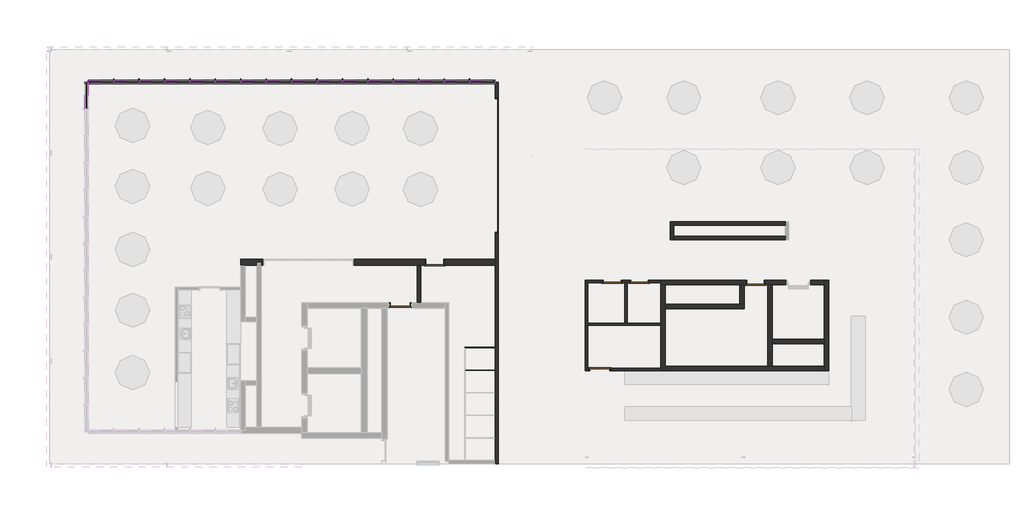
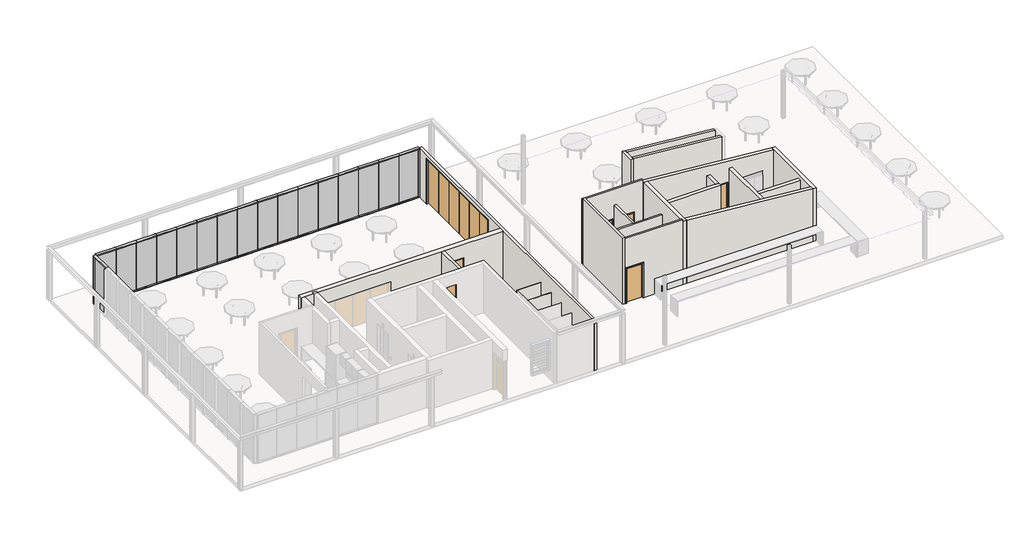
# One storey, part 2 of 4: 51 members, 21 walls, 17 plates, 7 doors.
"""IFC4 building model written with IfcOpenShell, lengths in millimetres."""

from ifc_helpers import new_model, si_unit, frame, origin, place, context, project, spatial, polyline, outline, extrude, faceted_brep, transform, mapped, element, save
from components import bi_fold_dor_6_panel_6000_e20a34a7, swing_metal_frame_single_dor_f6efc24d, swing_metal_frame_single_dor_e555ebe5, swing_metal_frame_single_dor_32c74b63, swing_metal_frame_single_dor_a031a637, swing_metal_frame_single_dor_bd4720e7, swing_metal_frame_single_dor_23685e93, rectangular_mullion_50_x_150mm_32aaa733, rectangular_mullion_50_x_150mm_9be94989, rectangular_mullion_50_x_150mm_1201c976, rectangular_mullion_glass_fin_37cd247f, system_panel_glazed_12mm_face_11843d3f, system_panel_glazed_12mm_face_3be9fbfc, system_panel_glazed_12mm_face_eaaf4d0e

model = new_model("IFC4")

# Units and contexts
model_context = context("Model", 3, world=origin())
ifc_project = project(units=[si_unit("LENGTHUNIT", "METRE", prefix="MILLI")], contexts=[model_context])

# Site, building, storey
site = spatial("IfcSite", under=ifc_project)
building = spatial("IfcBuilding", under=site)
storey = spatial("IfcBuildingStorey", under=building, Name="4階", Elevation=39200.0)

# Doors
placement = place(None, origin())
bi_fold_dor_6_panel_6000_shape = bi_fold_dor_6_panel_6000_e20a34a7(model_context)
element("IfcDoor", 1, ObjectType="Bi Fold_DOR : 6 Panel - 6000", at=placement, inside=storey, context=model_context, shape_type="MappedRepresentation", body=[
    mapped(bi_fold_dor_6_panel_6000_shape, transform((22348.6171203, 13435.0, 39200.0), x_axis=(0.0, -1.0, 0.0), y_axis=(1.0, 0.0, 0.0), z_axis=(0.0, 0.0, 1.0))),
])
swing_metal_frame_single_dor_shape = swing_metal_frame_single_dor_f6efc24d(model_context)
element("IfcDoor", 2, ObjectType="Swing_Metal Frame_Single_DOR : 2140h x 920 (2210x1010 BLK)", at=placement, inside=storey, context=model_context, shape_type="MappedRepresentation", body=[
    mapped(swing_metal_frame_single_dor_shape, transform((18069.6062665, 7210.0, 39200.0), x_axis=(1.0, 0.0, 0.0), y_axis=(0.0, 1.0, 0.0), z_axis=(0.0, 0.0, 1.0))),
])
swing_metal_frame_single_dor_2_shape = swing_metal_frame_single_dor_e555ebe5(model_context)
element("IfcDoor", 3, ObjectType="Swing_Metal Frame_Single_DOR : 2040h x 820 (2110x920 STUD)", at=placement, inside=storey, context=model_context, shape_type="MappedRepresentation", body=[
    mapped(swing_metal_frame_single_dor_2_shape, transform((19596.1062665, 9131.2680774, 39200.0), x_axis=(-1.0, 0.0, 0.0), y_axis=(0.0, -1.0, 0.0), z_axis=(0.0, 0.0, 1.0))),
])
swing_metal_frame_single_dor_3_shape = swing_metal_frame_single_dor_32c74b63(model_context)
element("IfcDoor", 4, ObjectType="Swing_Metal Frame_Single_DOR : 2040h x 820 (2110x920 STUD)", at=placement, inside=storey, context=model_context, shape_type="MappedRepresentation", body=[
    mapped(swing_metal_frame_single_dor_3_shape, transform((33839.2585166, 8230.005792, 39200.0), x_axis=(-1.0, 0.0, 0.0), y_axis=(0.0, -1.0, 0.0), z_axis=(0.0, 0.0, 1.0))),
])
swing_metal_frame_single_dor_4_shape = swing_metal_frame_single_dor_a031a637(model_context)
element("IfcDoor", 5, ObjectType="Swing_Metal Frame_Single_DOR : 2040h x 820 (2110x920 STUD)", at=placement, inside=storey, context=model_context, shape_type="MappedRepresentation", body=[
    mapped(swing_metal_frame_single_dor_4_shape, transform((28679.2585166, 8275.005792, 39200.0), x_axis=(1.0, 0.0, 0.0), y_axis=(0.0, 1.0, 0.0), z_axis=(0.0, 0.0, 1.0))),
])
swing_metal_frame_single_dor_5_shape = swing_metal_frame_single_dor_bd4720e7(model_context)
element("IfcDoor", 6, ObjectType="Swing_Metal Frame_Single_DOR : 2040h x 820 (2110x920 STUD)", at=placement, inside=storey, context=model_context, shape_type="MappedRepresentation", body=[
    mapped(swing_metal_frame_single_dor_5_shape, transform((27479.2585166, 8275.005792, 39200.0), x_axis=(-1.0, 0.0, 0.0), y_axis=(0.0, -1.0, 0.0), z_axis=(0.0, 0.0, 1.0))),
])
swing_metal_frame_single_dor_6_shape = swing_metal_frame_single_dor_23685e93(model_context)
element("IfcDoor", 7, ObjectType="Swing_Metal Frame_Single_DOR : 2040h x 920 (2110x1020 STUD)", at=placement, inside=storey, context=model_context, shape_type="MappedRepresentation", body=[
    mapped(swing_metal_frame_single_dor_6_shape, transform((26926.3585166, 4385.005792, 39200.0), x_axis=(1.0, 0.0, 0.0), y_axis=(0.0, 1.0, 0.0), z_axis=(0.0, 0.0, 1.0))),
])

# Members
rectangular_mullion_50_x_150mm_shape = rectangular_mullion_50_x_150mm_32aaa733(model_context)
element("IfcMember", 8, ObjectType="Rectangular Mullion : 50 x 150mm", at=placement, inside=storey, context=model_context, shape_type="MappedRepresentation", body=[
    mapped(rectangular_mullion_50_x_150mm_shape, transform((4144.6057353, 17135.0, 39250.0), x_axis=(0.0, 1.0, 0.0), y_axis=(1.0, 0.0, 0.0), z_axis=(0.0, 0.0, -1.0))),
])
element("IfcMember", 9, ObjectType="Rectangular Mullion : 50 x 150mm", at=placement, inside=storey, context=model_context, shape_type="MappedRepresentation", body=[
    mapped(rectangular_mullion_50_x_150mm_shape, transform((22273.6171203, 17135.0, 39250.0), x_axis=(1.0, 0.0, 0.0), y_axis=(0.0, -1.0, 0.0), z_axis=(0.0, 0.0, -1.0))),
])
element("IfcMember", 10, ObjectType="Rectangular Mullion : 50 x 150mm", at=placement, inside=storey, context=model_context, shape_type="MappedRepresentation", body=[
    mapped(rectangular_mullion_50_x_150mm_shape, transform((4219.6057353, 17135.0, 42050.0), x_axis=(-1.0, 0.0, 0.0), y_axis=(0.0, -1.0, 0.0), z_axis=(0.0, 0.0, 1.0))),
])
rectangular_mullion_50_x_150mm_2_shape = rectangular_mullion_50_x_150mm_9be94989(model_context)
element("IfcMember", 11, ObjectType="Rectangular Mullion : 50 x 150mm", at=placement, inside=storey, context=model_context, shape_type="MappedRepresentation", body=[
    mapped(rectangular_mullion_50_x_150mm_2_shape, transform((4144.6057353, 17135.0, 42100.0), x_axis=(0.0, 0.0, 1.0), y_axis=(1.0, 0.0, 0.0), z_axis=(0.0, 1.0, 0.0))),
])
rectangular_mullion_50_x_150mm_3_shape = rectangular_mullion_50_x_150mm_1201c976(model_context)
element("IfcMember", 12, ObjectType="Rectangular Mullion : 50 x 150mm", at=placement, inside=storey, context=model_context, shape_type="MappedRepresentation", body=[
    mapped(rectangular_mullion_50_x_150mm_3_shape, transform((22273.6171203, 17135.0, 42100.0), x_axis=(0.0, 0.0, 1.0), y_axis=(0.0, -1.0, 0.0), z_axis=(1.0, 0.0, 0.0))),
])
element("IfcMember", 13, ObjectType="Rectangular Mullion : 50 x 150mm", at=placement, inside=storey, context=model_context, shape_type="MappedRepresentation", body=[
    mapped(rectangular_mullion_50_x_150mm_3_shape, transform((4219.6057353, 17135.0, 39200.0), x_axis=(0.0, 0.0, -1.0), y_axis=(0.0, -1.0, 0.0), z_axis=(-1.0, 0.0, 0.0))),
])
element("IfcMember", 14, ObjectType="Rectangular Mullion : 50 x 150mm", at=placement, inside=storey, context=model_context, shape_type="MappedRepresentation", body=[
    mapped(rectangular_mullion_50_x_150mm_3_shape, transform((5347.9814468, 17135.0, 42100.0), x_axis=(0.0, 0.0, 1.0), y_axis=(0.0, -1.0, 0.0), z_axis=(1.0, 0.0, 0.0))),
])
element("IfcMember", 15, ObjectType="Rectangular Mullion : 50 x 150mm", at=placement, inside=storey, context=model_context, shape_type="MappedRepresentation", body=[
    mapped(rectangular_mullion_50_x_150mm_3_shape, transform((6476.3571584, 17135.0, 42100.0), x_axis=(0.0, 0.0, 1.0), y_axis=(0.0, -1.0, 0.0), z_axis=(1.0, 0.0, 0.0))),
])
element("IfcMember", 16, ObjectType="Rectangular Mullion : 50 x 150mm", at=placement, inside=storey, context=model_context, shape_type="MappedRepresentation", body=[
    mapped(rectangular_mullion_50_x_150mm_3_shape, transform((7604.7328699, 17135.0, 42100.0), x_axis=(0.0, 0.0, 1.0), y_axis=(0.0, -1.0, 0.0), z_axis=(1.0, 0.0, 0.0))),
])
element("IfcMember", 17, ObjectType="Rectangular Mullion : 50 x 150mm", at=placement, inside=storey, context=model_context, shape_type="MappedRepresentation", body=[
    mapped(rectangular_mullion_50_x_150mm_3_shape, transform((8733.1085815, 17135.0, 42100.0), x_axis=(0.0, 0.0, 1.0), y_axis=(0.0, -1.0, 0.0), z_axis=(1.0, 0.0, 0.0))),
])
element("IfcMember", 18, ObjectType="Rectangular Mullion : 50 x 150mm", at=placement, inside=storey, context=model_context, shape_type="MappedRepresentation", body=[
    mapped(rectangular_mullion_50_x_150mm_3_shape, transform((9861.4842931, 17135.0, 42100.0), x_axis=(0.0, 0.0, 1.0), y_axis=(0.0, -1.0, 0.0), z_axis=(1.0, 0.0, 0.0))),
])
element("IfcMember", 19, ObjectType="Rectangular Mullion : 50 x 150mm", at=placement, inside=storey, context=model_context, shape_type="MappedRepresentation", body=[
    mapped(rectangular_mullion_50_x_150mm_3_shape, transform((10989.8600046, 17135.0, 42100.0), x_axis=(0.0, 0.0, 1.0), y_axis=(0.0, -1.0, 0.0), z_axis=(1.0, 0.0, 0.0))),
])
element("IfcMember", 20, ObjectType="Rectangular Mullion : 50 x 150mm", at=placement, inside=storey, context=model_context, shape_type="MappedRepresentation", body=[
    mapped(rectangular_mullion_50_x_150mm_3_shape, transform((12118.2357162, 17135.0, 42100.0), x_axis=(0.0, 0.0, 1.0), y_axis=(0.0, -1.0, 0.0), z_axis=(1.0, 0.0, 0.0))),
])
element("IfcMember", 21, ObjectType="Rectangular Mullion : 50 x 150mm", at=placement, inside=storey, context=model_context, shape_type="MappedRepresentation", body=[
    mapped(rectangular_mullion_50_x_150mm_3_shape, transform((13246.6114278, 17135.0, 42100.0), x_axis=(0.0, 0.0, 1.0), y_axis=(0.0, -1.0, 0.0), z_axis=(1.0, 0.0, 0.0))),
])
element("IfcMember", 22, ObjectType="Rectangular Mullion : 50 x 150mm", at=placement, inside=storey, context=model_context, shape_type="MappedRepresentation", body=[
    mapped(rectangular_mullion_50_x_150mm_3_shape, transform((14374.9871393, 17135.0, 42100.0), x_axis=(0.0, 0.0, 1.0), y_axis=(0.0, -1.0, 0.0), z_axis=(1.0, 0.0, 0.0))),
])
element("IfcMember", 23, ObjectType="Rectangular Mullion : 50 x 150mm", at=placement, inside=storey, context=model_context, shape_type="MappedRepresentation", body=[
    mapped(rectangular_mullion_50_x_150mm_3_shape, transform((15503.3628509, 17135.0, 42100.0), x_axis=(0.0, 0.0, 1.0), y_axis=(0.0, -1.0, 0.0), z_axis=(1.0, 0.0, 0.0))),
])
element("IfcMember", 24, ObjectType="Rectangular Mullion : 50 x 150mm", at=placement, inside=storey, context=model_context, shape_type="MappedRepresentation", body=[
    mapped(rectangular_mullion_50_x_150mm_3_shape, transform((16631.7385625, 17135.0, 42100.0), x_axis=(0.0, 0.0, 1.0), y_axis=(0.0, -1.0, 0.0), z_axis=(1.0, 0.0, 0.0))),
])
element("IfcMember", 25, ObjectType="Rectangular Mullion : 50 x 150mm", at=placement, inside=storey, context=model_context, shape_type="MappedRepresentation", body=[
    mapped(rectangular_mullion_50_x_150mm_3_shape, transform((17760.114274, 17135.0, 42100.0), x_axis=(0.0, 0.0, 1.0), y_axis=(0.0, -1.0, 0.0), z_axis=(1.0, 0.0, 0.0))),
])
element("IfcMember", 26, ObjectType="Rectangular Mullion : 50 x 150mm", at=placement, inside=storey, context=model_context, shape_type="MappedRepresentation", body=[
    mapped(rectangular_mullion_50_x_150mm_3_shape, transform((18888.4899856, 17135.0, 42100.0), x_axis=(0.0, 0.0, 1.0), y_axis=(0.0, -1.0, 0.0), z_axis=(1.0, 0.0, 0.0))),
])
element("IfcMember", 27, ObjectType="Rectangular Mullion : 50 x 150mm", at=placement, inside=storey, context=model_context, shape_type="MappedRepresentation", body=[
    mapped(rectangular_mullion_50_x_150mm_3_shape, transform((20016.8656971, 17135.0, 42100.0), x_axis=(0.0, 0.0, 1.0), y_axis=(0.0, -1.0, 0.0), z_axis=(1.0, 0.0, 0.0))),
])
element("IfcMember", 28, ObjectType="Rectangular Mullion : 50 x 150mm", at=placement, inside=storey, context=model_context, shape_type="MappedRepresentation", body=[
    mapped(rectangular_mullion_50_x_150mm_3_shape, transform((21145.2414087, 17135.0, 42100.0), x_axis=(0.0, 0.0, 1.0), y_axis=(0.0, -1.0, 0.0), z_axis=(1.0, 0.0, 0.0))),
])
element("IfcMember", 29, ObjectType="Rectangular Mullion : 50 x 150mm", at=placement, inside=storey, context=model_context, shape_type="MappedRepresentation", body=[
    mapped(rectangular_mullion_50_x_150mm_3_shape, transform((5347.9814468, 17135.0, 39200.0), x_axis=(0.0, 0.0, -1.0), y_axis=(0.0, -1.0, 0.0), z_axis=(-1.0, 0.0, 0.0))),
])
element("IfcMember", 30, ObjectType="Rectangular Mullion : 50 x 150mm", at=placement, inside=storey, context=model_context, shape_type="MappedRepresentation", body=[
    mapped(rectangular_mullion_50_x_150mm_3_shape, transform((6476.3571584, 17135.0, 39200.0), x_axis=(0.0, 0.0, -1.0), y_axis=(0.0, -1.0, 0.0), z_axis=(-1.0, 0.0, 0.0))),
])
element("IfcMember", 31, ObjectType="Rectangular Mullion : 50 x 150mm", at=placement, inside=storey, context=model_context, shape_type="MappedRepresentation", body=[
    mapped(rectangular_mullion_50_x_150mm_3_shape, transform((7604.7328699, 17135.0, 39200.0), x_axis=(0.0, 0.0, -1.0), y_axis=(0.0, -1.0, 0.0), z_axis=(-1.0, 0.0, 0.0))),
])
element("IfcMember", 32, ObjectType="Rectangular Mullion : 50 x 150mm", at=placement, inside=storey, context=model_context, shape_type="MappedRepresentation", body=[
    mapped(rectangular_mullion_50_x_150mm_3_shape, transform((8733.1085815, 17135.0, 39200.0), x_axis=(0.0, 0.0, -1.0), y_axis=(0.0, -1.0, 0.0), z_axis=(-1.0, 0.0, 0.0))),
])
element("IfcMember", 33, ObjectType="Rectangular Mullion : 50 x 150mm", at=placement, inside=storey, context=model_context, shape_type="MappedRepresentation", body=[
    mapped(rectangular_mullion_50_x_150mm_3_shape, transform((9861.4842931, 17135.0, 39200.0), x_axis=(0.0, 0.0, -1.0), y_axis=(0.0, -1.0, 0.0), z_axis=(-1.0, 0.0, 0.0))),
])
element("IfcMember", 34, ObjectType="Rectangular Mullion : 50 x 150mm", at=placement, inside=storey, context=model_context, shape_type="MappedRepresentation", body=[
    mapped(rectangular_mullion_50_x_150mm_3_shape, transform((10989.8600046, 17135.0, 39200.0), x_axis=(0.0, 0.0, -1.0), y_axis=(0.0, -1.0, 0.0), z_axis=(-1.0, 0.0, 0.0))),
])
element("IfcMember", 35, ObjectType="Rectangular Mullion : 50 x 150mm", at=placement, inside=storey, context=model_context, shape_type="MappedRepresentation", body=[
    mapped(rectangular_mullion_50_x_150mm_3_shape, transform((12118.2357162, 17135.0, 39200.0), x_axis=(0.0, 0.0, -1.0), y_axis=(0.0, -1.0, 0.0), z_axis=(-1.0, 0.0, 0.0))),
])
element("IfcMember", 36, ObjectType="Rectangular Mullion : 50 x 150mm", at=placement, inside=storey, context=model_context, shape_type="MappedRepresentation", body=[
    mapped(rectangular_mullion_50_x_150mm_3_shape, transform((13246.6114278, 17135.0, 39200.0), x_axis=(0.0, 0.0, -1.0), y_axis=(0.0, -1.0, 0.0), z_axis=(-1.0, 0.0, 0.0))),
])
element("IfcMember", 37, ObjectType="Rectangular Mullion : 50 x 150mm", at=placement, inside=storey, context=model_context, shape_type="MappedRepresentation", body=[
    mapped(rectangular_mullion_50_x_150mm_3_shape, transform((14374.9871393, 17135.0, 39200.0), x_axis=(0.0, 0.0, -1.0), y_axis=(0.0, -1.0, 0.0), z_axis=(-1.0, 0.0, 0.0))),
])
element("IfcMember", 38, ObjectType="Rectangular Mullion : 50 x 150mm", at=placement, inside=storey, context=model_context, shape_type="MappedRepresentation", body=[
    mapped(rectangular_mullion_50_x_150mm_3_shape, transform((15503.3628509, 17135.0, 39200.0), x_axis=(0.0, 0.0, -1.0), y_axis=(0.0, -1.0, 0.0), z_axis=(-1.0, 0.0, 0.0))),
])
element("IfcMember", 39, ObjectType="Rectangular Mullion : 50 x 150mm", at=placement, inside=storey, context=model_context, shape_type="MappedRepresentation", body=[
    mapped(rectangular_mullion_50_x_150mm_3_shape, transform((16631.7385625, 17135.0, 39200.0), x_axis=(0.0, 0.0, -1.0), y_axis=(0.0, -1.0, 0.0), z_axis=(-1.0, 0.0, 0.0))),
])
element("IfcMember", 40, ObjectType="Rectangular Mullion : 50 x 150mm", at=placement, inside=storey, context=model_context, shape_type="MappedRepresentation", body=[
    mapped(rectangular_mullion_50_x_150mm_3_shape, transform((17760.114274, 17135.0, 39200.0), x_axis=(0.0, 0.0, -1.0), y_axis=(0.0, -1.0, 0.0), z_axis=(-1.0, 0.0, 0.0))),
])
element("IfcMember", 41, ObjectType="Rectangular Mullion : 50 x 150mm", at=placement, inside=storey, context=model_context, shape_type="MappedRepresentation", body=[
    mapped(rectangular_mullion_50_x_150mm_3_shape, transform((18888.4899856, 17135.0, 39200.0), x_axis=(0.0, 0.0, -1.0), y_axis=(0.0, -1.0, 0.0), z_axis=(-1.0, 0.0, 0.0))),
])
element("IfcMember", 42, ObjectType="Rectangular Mullion : 50 x 150mm", at=placement, inside=storey, context=model_context, shape_type="MappedRepresentation", body=[
    mapped(rectangular_mullion_50_x_150mm_3_shape, transform((20016.8656971, 17135.0, 39200.0), x_axis=(0.0, 0.0, -1.0), y_axis=(0.0, -1.0, 0.0), z_axis=(-1.0, 0.0, 0.0))),
])
element("IfcMember", 43, ObjectType="Rectangular Mullion : 50 x 150mm", at=placement, inside=storey, context=model_context, shape_type="MappedRepresentation", body=[
    mapped(rectangular_mullion_50_x_150mm_3_shape, transform((21145.2414087, 17135.0, 39200.0), x_axis=(0.0, 0.0, -1.0), y_axis=(0.0, -1.0, 0.0), z_axis=(-1.0, 0.0, 0.0))),
])
rectangular_mullion_glass_fin_shape = rectangular_mullion_glass_fin_37cd247f(model_context)
element("IfcMember", 44, ObjectType="Rectangular Mullion : Glass Fin", at=placement, inside=storey, context=model_context, shape_type="MappedRepresentation", body=[
    mapped(rectangular_mullion_glass_fin_shape, transform((5347.9814468, 17135.0, 39250.0), x_axis=(1.0, 0.0, 0.0), y_axis=(0.0, -1.0, 0.0), z_axis=(0.0, 0.0, -1.0))),
])
element("IfcMember", 45, ObjectType="Rectangular Mullion : Glass Fin", at=placement, inside=storey, context=model_context, shape_type="MappedRepresentation", body=[
    mapped(rectangular_mullion_glass_fin_shape, transform((6476.3571584, 17135.0, 39250.0), x_axis=(1.0, 0.0, 0.0), y_axis=(0.0, -1.0, 0.0), z_axis=(0.0, 0.0, -1.0))),
])
element("IfcMember", 46, ObjectType="Rectangular Mullion : Glass Fin", at=placement, inside=storey, context=model_context, shape_type="MappedRepresentation", body=[
    mapped(rectangular_mullion_glass_fin_shape, transform((7604.7328699, 17135.0, 39250.0), x_axis=(1.0, 0.0, 0.0), y_axis=(0.0, -1.0, 0.0), z_axis=(0.0, 0.0, -1.0))),
])
element("IfcMember", 47, ObjectType="Rectangular Mullion : Glass Fin", at=placement, inside=storey, context=model_context, shape_type="MappedRepresentation", body=[
    mapped(rectangular_mullion_glass_fin_shape, transform((8733.1085815, 17135.0, 39250.0), x_axis=(1.0, 0.0, 0.0), y_axis=(0.0, -1.0, 0.0), z_axis=(0.0, 0.0, -1.0))),
])
element("IfcMember", 48, ObjectType="Rectangular Mullion : Glass Fin", at=placement, inside=storey, context=model_context, shape_type="MappedRepresentation", body=[
    mapped(rectangular_mullion_glass_fin_shape, transform((9861.4842931, 17135.0, 39250.0), x_axis=(1.0, 0.0, 0.0), y_axis=(0.0, -1.0, 0.0), z_axis=(0.0, 0.0, -1.0))),
])
element("IfcMember", 49, ObjectType="Rectangular Mullion : Glass Fin", at=placement, inside=storey, context=model_context, shape_type="MappedRepresentation", body=[
    mapped(rectangular_mullion_glass_fin_shape, transform((10989.8600046, 17135.0, 39250.0), x_axis=(1.0, 0.0, 0.0), y_axis=(0.0, -1.0, 0.0), z_axis=(0.0, 0.0, -1.0))),
])
element("IfcMember", 50, ObjectType="Rectangular Mullion : Glass Fin", at=placement, inside=storey, context=model_context, shape_type="MappedRepresentation", body=[
    mapped(rectangular_mullion_glass_fin_shape, transform((12118.2357162, 17135.0, 39250.0), x_axis=(1.0, 0.0, 0.0), y_axis=(0.0, -1.0, 0.0), z_axis=(0.0, 0.0, -1.0))),
])
element("IfcMember", 51, ObjectType="Rectangular Mullion : Glass Fin", at=placement, inside=storey, context=model_context, shape_type="MappedRepresentation", body=[
    mapped(rectangular_mullion_glass_fin_shape, transform((13246.6114278, 17135.0, 39250.0), x_axis=(1.0, 0.0, 0.0), y_axis=(0.0, -1.0, 0.0), z_axis=(0.0, 0.0, -1.0))),
])
element("IfcMember", 52, ObjectType="Rectangular Mullion : Glass Fin", at=placement, inside=storey, context=model_context, shape_type="MappedRepresentation", body=[
    mapped(rectangular_mullion_glass_fin_shape, transform((14374.9871393, 17135.0, 39250.0), x_axis=(1.0, 0.0, 0.0), y_axis=(0.0, -1.0, 0.0), z_axis=(0.0, 0.0, -1.0))),
])
element("IfcMember", 53, ObjectType="Rectangular Mullion : Glass Fin", at=placement, inside=storey, context=model_context, shape_type="MappedRepresentation", body=[
    mapped(rectangular_mullion_glass_fin_shape, transform((15503.3628509, 17135.0, 39250.0), x_axis=(1.0, 0.0, 0.0), y_axis=(0.0, -1.0, 0.0), z_axis=(0.0, 0.0, -1.0))),
])
element("IfcMember", 54, ObjectType="Rectangular Mullion : Glass Fin", at=placement, inside=storey, context=model_context, shape_type="MappedRepresentation", body=[
    mapped(rectangular_mullion_glass_fin_shape, transform((16631.7385625, 17135.0, 39250.0), x_axis=(1.0, 0.0, 0.0), y_axis=(0.0, -1.0, 0.0), z_axis=(0.0, 0.0, -1.0))),
])
element("IfcMember", 55, ObjectType="Rectangular Mullion : Glass Fin", at=placement, inside=storey, context=model_context, shape_type="MappedRepresentation", body=[
    mapped(rectangular_mullion_glass_fin_shape, transform((17760.114274, 17135.0, 39250.0), x_axis=(1.0, 0.0, 0.0), y_axis=(0.0, -1.0, 0.0), z_axis=(0.0, 0.0, -1.0))),
])
element("IfcMember", 56, ObjectType="Rectangular Mullion : Glass Fin", at=placement, inside=storey, context=model_context, shape_type="MappedRepresentation", body=[
    mapped(rectangular_mullion_glass_fin_shape, transform((18888.4899856, 17135.0, 39250.0), x_axis=(1.0, 0.0, 0.0), y_axis=(0.0, -1.0, 0.0), z_axis=(0.0, 0.0, -1.0))),
])
element("IfcMember", 57, ObjectType="Rectangular Mullion : Glass Fin", at=placement, inside=storey, context=model_context, shape_type="MappedRepresentation", body=[
    mapped(rectangular_mullion_glass_fin_shape, transform((20016.8656971, 17135.0, 39250.0), x_axis=(1.0, 0.0, 0.0), y_axis=(0.0, -1.0, 0.0), z_axis=(0.0, 0.0, -1.0))),
])
element("IfcMember", 58, ObjectType="Rectangular Mullion : Glass Fin", at=placement, inside=storey, context=model_context, shape_type="MappedRepresentation", body=[
    mapped(rectangular_mullion_glass_fin_shape, transform((21145.2414087, 17135.0, 39250.0), x_axis=(1.0, 0.0, 0.0), y_axis=(0.0, -1.0, 0.0), z_axis=(0.0, 0.0, -1.0))),
])

# Plates
system_panel_glazed_12mm_face_shape = system_panel_glazed_12mm_face_11843d3f(model_context)
element("IfcPlate", 59, ObjectType="System Panel : Glazed 12mm_Face", at=placement, inside=storey, context=model_context, shape_type="MappedRepresentation", body=[
    mapped(system_panel_glazed_12mm_face_shape, transform((4144.6057353, 16513.0419161, 39250.0), x_axis=(0.0, 1.0, 0.0), y_axis=(-1.0, 0.0, 0.0), z_axis=(0.0, 0.0, 1.0))),
])
system_panel_glazed_12mm_face_2_shape = system_panel_glazed_12mm_face_3be9fbfc(model_context)
element("IfcPlate", 60, ObjectType="System Panel : Glazed 12mm_Face", at=placement, inside=storey, context=model_context, shape_type="MappedRepresentation", body=[
    mapped(system_panel_glazed_12mm_face_2_shape, transform((4808.793591, 17135.0, 39250.0), x_axis=(1.0, 0.0, 0.0), y_axis=(0.0, 1.0, 0.0), z_axis=(0.0, 0.0, 1.0))),
])
element("IfcPlate", 61, ObjectType="System Panel : Glazed 12mm_Face", at=placement, inside=storey, context=model_context, shape_type="MappedRepresentation", body=[
    mapped(system_panel_glazed_12mm_face_2_shape, transform((21684.4292645, 17135.0, 39250.0), x_axis=(1.0, 0.0, 0.0), y_axis=(0.0, 1.0, 0.0), z_axis=(0.0, 0.0, 1.0))),
])
system_panel_glazed_12mm_face_3_shape = system_panel_glazed_12mm_face_eaaf4d0e(model_context)
element("IfcPlate", 62, ObjectType="System Panel : Glazed 12mm_Face", at=placement, inside=storey, context=model_context, shape_type="MappedRepresentation", body=[
    mapped(system_panel_glazed_12mm_face_3_shape, transform((5912.1693026, 17135.0, 39250.0), x_axis=(1.0, 0.0, 0.0), y_axis=(0.0, 1.0, 0.0), z_axis=(0.0, 0.0, 1.0))),
])
element("IfcPlate", 63, ObjectType="System Panel : Glazed 12mm_Face", at=placement, inside=storey, context=model_context, shape_type="MappedRepresentation", body=[
    mapped(system_panel_glazed_12mm_face_3_shape, transform((7040.5450142, 17135.0, 39250.0), x_axis=(1.0, 0.0, 0.0), y_axis=(0.0, 1.0, 0.0), z_axis=(0.0, 0.0, 1.0))),
])
element("IfcPlate", 64, ObjectType="System Panel : Glazed 12mm_Face", at=placement, inside=storey, context=model_context, shape_type="MappedRepresentation", body=[
    mapped(system_panel_glazed_12mm_face_3_shape, transform((8168.9207257, 17135.0, 39250.0), x_axis=(1.0, 0.0, 0.0), y_axis=(0.0, 1.0, 0.0), z_axis=(0.0, 0.0, 1.0))),
])
element("IfcPlate", 65, ObjectType="System Panel : Glazed 12mm_Face", at=placement, inside=storey, context=model_context, shape_type="MappedRepresentation", body=[
    mapped(system_panel_glazed_12mm_face_3_shape, transform((9297.2964373, 17135.0, 39250.0), x_axis=(1.0, 0.0, 0.0), y_axis=(0.0, 1.0, 0.0), z_axis=(0.0, 0.0, 1.0))),
])
element("IfcPlate", 66, ObjectType="System Panel : Glazed 12mm_Face", at=placement, inside=storey, context=model_context, shape_type="MappedRepresentation", body=[
    mapped(system_panel_glazed_12mm_face_3_shape, transform((10425.6721489, 17135.0, 39250.0), x_axis=(1.0, 0.0, 0.0), y_axis=(0.0, 1.0, 0.0), z_axis=(0.0, 0.0, 1.0))),
])
element("IfcPlate", 67, ObjectType="System Panel : Glazed 12mm_Face", at=placement, inside=storey, context=model_context, shape_type="MappedRepresentation", body=[
    mapped(system_panel_glazed_12mm_face_3_shape, transform((11554.0478604, 17135.0, 39250.0), x_axis=(1.0, 0.0, 0.0), y_axis=(0.0, 1.0, 0.0), z_axis=(0.0, 0.0, 1.0))),
])
element("IfcPlate", 68, ObjectType="System Panel : Glazed 12mm_Face", at=placement, inside=storey, context=model_context, shape_type="MappedRepresentation", body=[
    mapped(system_panel_glazed_12mm_face_3_shape, transform((12682.423572, 17135.0, 39250.0), x_axis=(1.0, 0.0, 0.0), y_axis=(0.0, 1.0, 0.0), z_axis=(0.0, 0.0, 1.0))),
])
element("IfcPlate", 69, ObjectType="System Panel : Glazed 12mm_Face", at=placement, inside=storey, context=model_context, shape_type="MappedRepresentation", body=[
    mapped(system_panel_glazed_12mm_face_3_shape, transform((13810.7992835, 17135.0, 39250.0), x_axis=(1.0, 0.0, 0.0), y_axis=(0.0, 1.0, 0.0), z_axis=(0.0, 0.0, 1.0))),
])
element("IfcPlate", 70, ObjectType="System Panel : Glazed 12mm_Face", at=placement, inside=storey, context=model_context, shape_type="MappedRepresentation", body=[
    mapped(system_panel_glazed_12mm_face_3_shape, transform((14939.1749951, 17135.0, 39250.0), x_axis=(1.0, 0.0, 0.0), y_axis=(0.0, 1.0, 0.0), z_axis=(0.0, 0.0, 1.0))),
])
element("IfcPlate", 71, ObjectType="System Panel : Glazed 12mm_Face", at=placement, inside=storey, context=model_context, shape_type="MappedRepresentation", body=[
    mapped(system_panel_glazed_12mm_face_3_shape, transform((16067.5507067, 17135.0, 39250.0), x_axis=(1.0, 0.0, 0.0), y_axis=(0.0, 1.0, 0.0), z_axis=(0.0, 0.0, 1.0))),
])
element("IfcPlate", 72, ObjectType="System Panel : Glazed 12mm_Face", at=placement, inside=storey, context=model_context, shape_type="MappedRepresentation", body=[
    mapped(system_panel_glazed_12mm_face_3_shape, transform((17195.9264182, 17135.0, 39250.0), x_axis=(1.0, 0.0, 0.0), y_axis=(0.0, 1.0, 0.0), z_axis=(0.0, 0.0, 1.0))),
])
element("IfcPlate", 73, ObjectType="System Panel : Glazed 12mm_Face", at=placement, inside=storey, context=model_context, shape_type="MappedRepresentation", body=[
    mapped(system_panel_glazed_12mm_face_3_shape, transform((18324.3021298, 17135.0, 39250.0), x_axis=(1.0, 0.0, 0.0), y_axis=(0.0, 1.0, 0.0), z_axis=(0.0, 0.0, 1.0))),
])
element("IfcPlate", 74, ObjectType="System Panel : Glazed 12mm_Face", at=placement, inside=storey, context=model_context, shape_type="MappedRepresentation", body=[
    mapped(system_panel_glazed_12mm_face_3_shape, transform((19452.6778414, 17135.0, 39250.0), x_axis=(1.0, 0.0, 0.0), y_axis=(0.0, 1.0, 0.0), z_axis=(0.0, 0.0, 1.0))),
])
element("IfcPlate", 75, ObjectType="System Panel : Glazed 12mm_Face", at=placement, inside=storey, context=model_context, shape_type="MappedRepresentation", body=[
    mapped(system_panel_glazed_12mm_face_3_shape, transform((20581.0535529, 17135.0, 39250.0), x_axis=(1.0, 0.0, 0.0), y_axis=(0.0, 1.0, 0.0), z_axis=(0.0, 0.0, 1.0))),
])

# Walls
element("IfcWall", 76, ObjectType="Whte Paint Finish", at=placement, inside=storey, context=model_context, shape_type="SweptSolid", body=[
    extrude(outline(polyline([(18971.1062665, 8996.2680774), (18971.1062665, 7335.0), (18821.1062665, 7335.0), (18821.1062665, 8996.2680774), (18971.1062665, 8996.2680774)])), frame((0.0, 0.0, 39200.0), z_axis=(0.0, 0.0, 1.0), x_axis=(1.0, 0.0, 0.0)), (0.0, 0.0, 1.0), 2900.0),
])
element("IfcWall", 77, ObjectType="Brickwork_Double_270mm", at=placement, inside=storey, context=model_context, shape_type="Brep", body=[
    faceted_brep([(22273.6171203, 8996.2680774, 42100.0), (18971.1062665, 8996.2680774, 42100.0), (18821.1062665, 8996.2680774, 42100.0), (11194.6062665, 8996.2680774, 42100.0), (10994.6062665, 8996.2680774, 42100.0), (10994.6062665, 8996.2680774, 39200.0), (11194.6062665, 8996.2680774, 39200.0), (11994.6062665, 8996.2680774, 39200.0), (11994.6062665, 8996.2680774, 41300.0), (15994.6062665, 8996.2680774, 41300.0), (15994.6062665, 8996.2680774, 39200.0), (18821.1062665, 8996.2680774, 39200.0), (18971.1062665, 8996.2680774, 39200.0), (19156.1062665, 8996.2680774, 39200.0), (19156.1062665, 8996.2680774, 41290.0), (20036.1062665, 8996.2680774, 41290.0), (20036.1062665, 8996.2680774, 39200.0), (22273.6171203, 8996.2680774, 39200.0), (10994.6062665, 9266.2680774, 42100.0), (22273.6171203, 9266.2680774, 42100.0), (22273.6171203, 9266.2680774, 39200.0), (20036.1062665, 9266.2680774, 39200.0), (20036.1062665, 9266.2680774, 41290.0), (19156.1062665, 9266.2680774, 41290.0), (19156.1062665, 9266.2680774, 39200.0), (15994.6062665, 9266.2680774, 39200.0), (15994.6062665, 9266.2680774, 41300.0), (11994.6062665, 9266.2680774, 41300.0), (11994.6062665, 9266.2680774, 39200.0), (10994.6062665, 9266.2680774, 39200.0)], [[[0, 1, 2, 3, 4, 5, 6, 7, 8, 9, 10, 11, 12, 13, 14, 15, 16, 17]], [[18, 19, 20, 21, 22, 23, 24, 25, 26, 27, 28, 29]], [[5, 29, 28, 7, 6]], [[10, 25, 24, 13, 12, 11]], [[20, 17, 16, 21]], [[4, 3, 2, 1, 0, 19, 18]], [[5, 4, 18, 29]], [[9, 26, 25, 10]], [[26, 9, 8, 27]], [[27, 8, 7, 28]], [[0, 17, 20, 19]], [[23, 14, 13, 24]], [[14, 23, 22, 15]], [[15, 22, 21, 16]]]),
])
element("IfcWall", 78, ObjectType="Whte Paint Finish", at=placement, inside=storey, context=model_context, shape_type="Brep", body=[
    faceted_brep([(22423.6171203, 17135.0, 39200.0), (22423.6171203, 17135.0, 42100.0), (22423.6171203, 200.0, 42100.0), (22423.6171203, 200.0, 39200.0), (22423.6171203, 10435.0, 39200.0), (22423.6171203, 10435.0, 41900.0), (22423.6171203, 16435.0, 41900.0), (22423.6171203, 16435.0, 39200.0), (22273.6171203, 17135.0, 42100.0), (22273.6171203, 17135.0, 39200.0), (22273.6171203, 17110.0, 39200.0), (22273.6171203, 16435.0, 39200.0), (22273.6171203, 16435.0, 41900.0), (22273.6171203, 10435.0, 41900.0), (22273.6171203, 10435.0, 39200.0), (22273.6171203, 9266.2680774, 39200.0), (22273.6171203, 8996.2680774, 39200.0), (22273.6171203, 5354.0, 39200.0), (22273.6171203, 5336.0, 39200.0), (22273.6171203, 4354.0, 39200.0), (22273.6171203, 4336.0, 39200.0), (22273.6171203, 3354.0, 39200.0), (22273.6171203, 3336.0, 39200.0), (22273.6171203, 2354.0, 39200.0), (22273.6171203, 2336.0, 39200.0), (22273.6171203, 1354.0, 39200.0), (22273.6171203, 1336.0, 39200.0), (22273.6171203, 350.0, 39200.0), (22273.6171203, 200.0, 39200.0), (22273.6171203, 200.0, 42100.0), (22273.6171203, 350.0, 42100.0), (22273.6171203, 8996.2680774, 42100.0), (22273.6171203, 9266.2680774, 42100.0), (22273.6171203, 17110.0, 42100.0)], [[[0, 1, 2, 3, 4, 5, 6, 7]], [[8, 9, 10, 11, 12, 13, 14, 15, 16, 17, 18, 19, 20, 21, 22, 23, 24, 25, 26, 27, 28, 29, 30, 31, 32, 33]], [[9, 0, 7, 11, 10]], [[3, 28, 27, 26, 25, 24, 23, 22, 21, 20, 19, 18, 17, 16, 15, 14, 4]], [[1, 0, 9, 8]], [[2, 1, 8, 33, 32, 31, 30, 29]], [[13, 5, 4, 14]], [[5, 13, 12, 6]], [[6, 12, 11, 7]], [[3, 2, 29, 28]]]),
])
element("IfcWall", 79, ObjectType="Brickwork_Single_110mm", at=placement, inside=storey, context=model_context, shape_type="Brep", body=[
    faceted_brep([(26271.3585166, 8330.005792, 43021.2126873), (29622.1585166, 8330.005792, 43021.2126873), (29622.1585166, 8330.005792, 42952.6654299), (29622.1585166, 8330.005792, 39200.0), (29119.2585166, 8330.005792, 39200.0), (29119.2585166, 8330.005792, 41290.0), (28239.2585166, 8330.005792, 41290.0), (28239.2585166, 8330.005792, 39200.0), (27919.2585166, 8330.005792, 39200.0), (27919.2585166, 8330.005792, 41290.0), (27039.2585166, 8330.005792, 41290.0), (27039.2585166, 8330.005792, 39200.0), (26271.3585166, 8330.005792, 39200.0), (29622.1585166, 8220.005792, 43021.2126873), (26271.3585166, 8220.005792, 43021.2126873), (26271.3585166, 8220.005792, 39200.0), (26381.3585166, 8220.005792, 39200.0), (27039.2585166, 8220.005792, 39200.0), (27039.2585166, 8220.005792, 41290.0), (27919.2585166, 8220.005792, 41290.0), (27919.2585166, 8220.005792, 39200.0), (28024.2585166, 8220.005792, 39200.0), (28134.2585166, 8220.005792, 39200.0), (28239.2585166, 8220.005792, 39200.0), (28239.2585166, 8220.005792, 41290.0), (29119.2585166, 8220.005792, 41290.0), (29119.2585166, 8220.005792, 39200.0), (29622.1585166, 8220.005792, 39200.0)], [[[0, 1, 2, 3, 4, 5, 6, 7, 8, 9, 10, 11, 12]], [[13, 14, 15, 16, 17, 18, 19, 20, 21, 22, 23, 24, 25, 26, 27]], [[3, 27, 26, 4]], [[15, 12, 11, 17, 16]], [[20, 8, 7, 23, 22, 21]], [[1, 0, 14, 13]], [[3, 2, 1, 13, 27]], [[0, 12, 15, 14]], [[10, 18, 17, 11]], [[18, 10, 9, 19]], [[19, 9, 8, 20]], [[25, 5, 4, 26]], [[5, 25, 24, 6]], [[6, 24, 23, 7]]]),
])
element("IfcWall", 80, ObjectType="Brickwork_Single_110mm", at=placement, inside=storey, context=model_context, shape_type="Brep", body=[
    faceted_brep([(26271.3585166, 8220.005792, 39200.0), (26271.3585166, 4330.005792, 39200.0), (26271.3585166, 4330.005792, 43119.1059986), (26271.3585166, 8220.005792, 43119.1059986), (26271.3585166, 8220.005792, 43021.2126873), (26381.3585166, 8220.005792, 39200.0), (26381.3585166, 8220.005792, 43119.1059986), (26381.3585166, 4330.005792, 43119.1059986), (26381.3585166, 4330.005792, 43030.8446471), (26381.3585166, 4330.005792, 39200.0), (26381.3585166, 4440.005792, 39200.0), (26381.3585166, 6330.005792, 39200.0), (26381.3585166, 6440.005792, 39200.0)], [[[0, 1, 2, 3, 4]], [[5, 6, 7, 8, 9, 10, 11, 12]], [[1, 0, 5, 12, 11, 10, 9]], [[3, 2, 7, 6]], [[0, 4, 3, 6, 5]], [[2, 1, 9, 8, 7]]]),
])
element("IfcWall", 81, ObjectType="Brickwork_Single_110mm", at=placement, inside=storey, context=model_context, shape_type="Brep", body=[
    faceted_brep([(29622.1585166, 4330.005792, 43030.8446471), (26381.3585166, 4330.005792, 43030.8446471), (26381.3585166, 4330.005792, 39200.0), (26436.3585166, 4330.005792, 39200.0), (26436.3585166, 4330.005792, 41290.0), (27416.3585166, 4330.005792, 41290.0), (27416.3585166, 4330.005792, 39200.0), (29622.1585166, 4330.005792, 39200.0), (29622.1585166, 4330.005792, 42952.6654299), (26381.3585166, 4440.005792, 43030.8446471), (29622.1585166, 4440.005792, 43030.8446471), (29622.1585166, 4440.005792, 39200.0), (27416.3585166, 4440.005792, 39200.0), (27416.3585166, 4440.005792, 41290.0), (26436.3585166, 4440.005792, 41290.0), (26436.3585166, 4440.005792, 39200.0), (26381.3585166, 4440.005792, 39200.0)], [[[0, 1, 2, 3, 4, 5, 6, 7, 8]], [[9, 10, 11, 12, 13, 14, 15, 16]], [[2, 16, 15, 3]], [[11, 7, 6, 12]], [[1, 0, 10, 9]], [[2, 1, 9, 16]], [[0, 8, 7, 11, 10]], [[5, 13, 12, 6]], [[13, 5, 4, 14]], [[14, 4, 3, 15]]]),
])
element("IfcWall", 82, ObjectType="Brickwork_Single_110mm", at=placement, inside=storey, context=model_context, shape_type="Brep", body=[
    faceted_brep([(26381.3585166, 6330.005792, 39200.0), (29622.1585166, 6330.005792, 39200.0), (29622.1585166, 6330.005792, 42100.0), (26381.3585166, 6330.005792, 42100.0), (26381.3585166, 6440.005792, 39200.0), (26381.3585166, 6440.005792, 42100.0), (28024.2585166, 6440.005792, 42100.0), (28134.2585166, 6440.005792, 42100.0), (29622.1585166, 6440.005792, 42100.0), (29622.1585166, 6440.005792, 39200.0), (28134.2585166, 6440.005792, 39200.0), (28024.2585166, 6440.005792, 39200.0)], [[[0, 1, 2, 3]], [[4, 5, 6, 7, 8, 9, 10, 11]], [[1, 0, 4, 11, 10, 9]], [[3, 2, 8, 7, 6, 5]], [[2, 1, 9, 8]], [[0, 3, 5, 4]]]),
])
element("IfcWall", 83, ObjectType="Brickwork_Single_110mm", at=placement, inside=storey, context=model_context, shape_type="SweptSolid", body=[
    extrude(outline(polyline([(28024.2585166, 6440.005792), (28024.2585166, 8220.005792), (28134.2585166, 8220.005792), (28134.2585166, 6440.005792), (28024.2585166, 6440.005792)])), frame((0.0, 0.0, 39200.0), z_axis=(0.0, 0.0, 1.0), x_axis=(1.0, 0.0, 0.0)), (0.0, 0.0, 1.0), 2900.0),
])
element("IfcWall", 84, ObjectType="C1 - Concrete Type 2", at=placement, inside=storey, context=model_context, shape_type="Brep", body=[
    faceted_brep([(29822.1585166, 7080.005792, 39200.0), (33332.1585166, 7080.005792, 39200.0), (33332.1585166, 7080.005792, 42100.0), (29822.1585166, 7080.005792, 42100.0), (29822.1585166, 7280.005792, 39200.0), (29822.1585166, 7280.005792, 42100.0), (33132.1585166, 7280.005792, 42100.0), (33332.1585166, 7280.005792, 42100.0), (33332.1585166, 7280.005792, 39200.0), (33132.1585166, 7280.005792, 39200.0)], [[[0, 1, 2, 3]], [[4, 5, 6, 7, 8, 9]], [[1, 0, 4, 9, 8]], [[3, 2, 7, 6, 5]], [[2, 1, 8, 7]], [[0, 3, 5, 4]]]),
])
element("IfcWall", 85, ObjectType="C1 - Concrete Type 2", at=placement, inside=storey, context=model_context, shape_type="Brep", body=[
    faceted_brep([(34382.1585166, 8130.005792, 39200.0), (34382.1585166, 4530.005792, 39200.0), (34382.1585166, 4530.005792, 42100.0), (34382.1585166, 8130.005792, 42100.0), (34582.1585166, 8130.005792, 39200.0), (34582.1585166, 8130.005792, 42100.0), (34582.1585166, 5730.005792, 42100.0), (34582.1585166, 5530.005792, 42100.0), (34582.1585166, 4530.005792, 42100.0), (34582.1585166, 4530.005792, 39200.0), (34582.1585166, 5530.005792, 39200.0), (34582.1585166, 5730.005792, 39200.0)], [[[0, 1, 2, 3]], [[4, 5, 6, 7, 8, 9, 10, 11]], [[1, 0, 4, 11, 10, 9]], [[3, 2, 8, 7, 6, 5]], [[2, 1, 9, 8]], [[0, 3, 5, 4]]]),
])
element("IfcWall", 86, ObjectType="C1 - Concrete Type 2", at=placement, inside=storey, context=model_context, shape_type="SweptSolid", body=[
    extrude(outline(polyline([(33132.1585166, 7280.005792), (33132.1585166, 8130.005792), (33332.1585166, 8130.005792), (33332.1585166, 7280.005792), (33132.1585166, 7280.005792)])), frame((0.0, 0.0, 39200.0), z_axis=(0.0, 0.0, 1.0), x_axis=(1.0, 0.0, 0.0)), (0.0, 0.0, 1.0), 2900.0),
])
element("IfcWall", 87, ObjectType="C1 - Concrete Type 2", at=placement, inside=storey, context=model_context, shape_type="SweptSolid", body=[
    extrude(outline(polyline([(36882.1585166, 5530.005792), (34582.1585166, 5530.005792), (34582.1585166, 5730.005792), (36882.1585166, 5730.005792), (36882.1585166, 5530.005792)])), frame((0.0, 0.0, 39200.0), z_axis=(0.0, 0.0, 1.0), x_axis=(1.0, 0.0, 0.0)), (0.0, 0.0, 1.0), 2900.0),
])
element("IfcWall", 88, ObjectType="C1 - Concrete Type 2", at=placement, inside=storey, context=model_context, shape_type="Brep", body=[
    faceted_brep([(36882.1585166, 8330.005792, 39200.0), (36882.1585166, 8130.005792, 39200.0), (36882.1585166, 4530.005792, 39200.0), (36882.1585166, 4330.005792, 39200.0), (36882.1585166, 4330.005792, 42317.4977327), (36882.1585166, 4530.005792, 42317.4977327), (36882.1585166, 8130.005792, 42317.4977327), (36882.1585166, 8330.005792, 42317.4977327), (37082.1585166, 8330.005792, 39200.0), (37082.1585166, 8330.005792, 42300.0), (37082.1585166, 4330.005792, 42300.0), (37082.1585166, 4330.005792, 39200.0)], [[[0, 1, 2, 3, 4, 5, 6, 7]], [[8, 9, 10, 11]], [[3, 2, 1, 0, 8, 11]], [[0, 7, 9, 8]], [[4, 3, 11, 10]], [[7, 6, 5, 4, 10, 9]]]),
])
element("IfcWall", 89, ObjectType="C1 - Concrete Type 2", at=placement, inside=storey, context=model_context, shape_type="Brep", body=[
    faceted_brep([(36282.1585166, 8130.005792, 41300.0), (36282.1585166, 8130.005792, 39200.0), (36882.1585166, 8130.005792, 39200.0), (36882.1585166, 8130.005792, 42317.4977327), (29822.1585166, 8130.005792, 42935.1676972), (29622.1585166, 8130.005792, 42952.6654299), (29622.1585166, 8130.005792, 39200.0), (29822.1585166, 8130.005792, 39200.0), (33399.2585166, 8130.005792, 39200.0), (33399.2585166, 8130.005792, 41290.0), (34279.2585166, 8130.005792, 41290.0), (34279.2585166, 8130.005792, 39200.0), (34382.1585166, 8130.005792, 39200.0), (34582.1585166, 8130.005792, 39200.0), (35182.1585166, 8130.005792, 39200.0), (35182.1585166, 8130.005792, 41300.0), (36282.1585166, 8330.005792, 39200.0), (36282.1585166, 8330.005792, 41300.0), (35182.1585166, 8330.005792, 41300.0), (35182.1585166, 8330.005792, 39200.0), (34279.2585166, 8330.005792, 39200.0), (34279.2585166, 8330.005792, 41290.0), (33399.2585166, 8330.005792, 41290.0), (33399.2585166, 8330.005792, 39200.0), (29622.1585166, 8330.005792, 39200.0), (29622.1585166, 8330.005792, 42952.6654299), (36882.1585166, 8330.005792, 42317.4977327), (36882.1585166, 8330.005792, 39200.0), (36412.1585166, 8330.005792, 40100.0), (36412.1585166, 8330.005792, 39900.0), (36512.1585166, 8330.005792, 39900.0), (36512.1585166, 8330.005792, 40100.0), (35682.1585166, 8330.005792, 41600.0), (35682.1585166, 8330.005792, 41400.0), (35782.1585166, 8330.005792, 41400.0), (35782.1585166, 8330.005792, 41600.0), (29622.1585166, 8220.005792, 39200.0), (36412.1585166, 8310.005792, 39900.0), (36412.1585166, 8310.005792, 40100.0), (36512.1585166, 8310.005792, 40100.0), (36512.1585166, 8310.005792, 39900.0), (35682.1585166, 8310.005792, 41400.0), (35682.1585166, 8310.005792, 41600.0), (35782.1585166, 8310.005792, 41600.0), (35782.1585166, 8310.005792, 41400.0)], [[[0, 1, 2, 3, 4, 5, 6, 7, 8, 9, 10, 11, 12, 13, 14, 15]], [[16, 17, 18, 19, 20, 21, 22, 23, 24, 25, 26, 27], [28, 29, 30, 31], [32, 33, 34, 35]], [[27, 2, 1, 16]], [[19, 14, 13, 12, 11, 20]], [[6, 36, 24, 23, 8, 7]], [[0, 17, 16, 1]], [[18, 15, 14, 19]], [[17, 0, 15, 18]], [[37, 38, 39, 40]], [[38, 37, 29, 28]], [[39, 38, 28, 31]], [[40, 39, 31, 30]], [[37, 40, 30, 29]], [[41, 42, 43, 44]], [[42, 41, 33, 32]], [[43, 42, 32, 35]], [[44, 43, 35, 34]], [[41, 44, 34, 33]], [[2, 27, 26, 3]], [[6, 5, 25, 24, 36]], [[5, 4, 3, 26, 25]], [[22, 9, 8, 23]], [[9, 22, 21, 10]], [[10, 21, 20, 11]]]),
])
element("IfcWall", 90, ObjectType="C1 - Concrete Type 2", at=placement, inside=storey, context=model_context, shape_type="Brep", body=[
    faceted_brep([(29822.1585166, 4330.005792, 39200.0), (29822.1585166, 4530.005792, 39200.0), (29822.1585166, 8130.005792, 39200.0), (29822.1585166, 8130.005792, 42935.1676972), (29822.1585166, 4530.005792, 42935.1676972), (29822.1585166, 4330.005792, 42935.1676972), (29622.1585166, 4330.005792, 39200.0), (29622.1585166, 4330.005792, 42952.6654299), (29622.1585166, 8130.005792, 42952.6654299), (29622.1585166, 8130.005792, 39200.0), (29622.1585166, 6440.005792, 39200.0), (29622.1585166, 6330.005792, 39200.0), (29622.1585166, 4440.005792, 39200.0)], [[[0, 1, 2, 3, 4, 5]], [[6, 7, 8, 9, 10, 11, 12]], [[2, 1, 0, 6, 12, 11, 10, 9]], [[0, 5, 7, 6]], [[3, 2, 9, 8]], [[5, 4, 3, 8, 7]]]),
])
element("IfcWall", 91, ObjectType="C1 - Concrete Type 2", at=placement, inside=storey, context=model_context, shape_type="Brep", body=[
    faceted_brep([(29822.1585166, 4330.005792, 39200.0), (36882.1585166, 4330.005792, 39200.0), (36882.1585166, 4330.005792, 42317.4977327), (29822.1585166, 4330.005792, 42935.1676972), (29822.1585166, 4530.005792, 39200.0), (29822.1585166, 4530.005792, 42935.1676972), (36882.1585166, 4530.005792, 42317.4977327), (36882.1585166, 4530.005792, 39200.0), (34582.1585166, 4530.005792, 39200.0), (34382.1585166, 4530.005792, 39200.0)], [[[0, 1, 2, 3]], [[4, 5, 6, 7, 8, 9]], [[1, 0, 4, 9, 8, 7]], [[0, 3, 5, 4]], [[2, 1, 7, 6]], [[3, 2, 6, 5]]]),
])
element("IfcWall", 92, ObjectType="C5 - Concrete Type 5 150mm", at=placement, inside=storey, context=model_context, shape_type="Brep", body=[
    faceted_brep([(30051.7619997, 10930.0213727, 39200.0), (30051.7619997, 10130.005792, 39200.0), (30051.7619997, 10130.005792, 42915.0799953), (30051.7619997, 10930.0213727, 42915.0799953), (30201.7619997, 10930.0213727, 39200.0), (30201.7619997, 10930.0213727, 42901.9566958), (30201.7619997, 10780.0213727, 42901.9566958), (30201.7619997, 10280.005792, 42901.9566958), (30201.7619997, 10130.005792, 42901.9566958), (30201.7619997, 10130.005792, 39200.0), (30201.7619997, 10280.005792, 39200.0), (30201.7619997, 10780.0213727, 39200.0)], [[[0, 1, 2, 3]], [[4, 5, 6, 7, 8, 9, 10, 11]], [[1, 0, 4, 11, 10, 9]], [[0, 3, 5, 4]], [[2, 1, 9, 8]], [[3, 2, 8, 7, 6, 5]]]),
])
element("IfcWall", 93, ObjectType="C5 - Concrete Type 5 150mm", at=placement, inside=storey, context=model_context, shape_type="SweptSolid", body=[
    extrude(outline(polyline([(39200.0, 35151.7619997), (42468.8878113, 35151.7619997), (42901.9566958, 30201.7619997), (39200.0, 30201.7619997), (39200.0, 35151.7619997)])), frame((0.0, 10130.005792, 0.0), z_axis=(0.0, 1.0, 0.0), x_axis=(0.0, 0.0, 1.0)), (0.0, 0.0, 1.0), 150.0),
])
element("IfcWall", 94, ObjectType="C5 - Concrete Type 5 150mm", at=placement, inside=storey, context=model_context, shape_type="SweptSolid", body=[
    extrude(outline(polyline([(39200.0, 35151.7619997), (42468.8878113, 35151.7619997), (42901.9566958, 30201.7619997), (39200.0, 30201.7619997), (39200.0, 35151.7619997)])), frame((0.0, 10780.0213727, 0.0), z_axis=(0.0, 1.0, 0.0), x_axis=(0.0, 0.0, 1.0)), (0.0, 0.0, 1.0), 150.0),
])
element("IfcWall", 95, ObjectType="Toilet Partition_18mm", at=placement, inside=storey, context=model_context, shape_type="Brep", body=[
    faceted_brep([(22273.6171203, 5354.0, 39200.0), (20939.6171203, 5354.0, 39200.0), (20939.6171203, 5354.0, 41300.0), (22273.6171203, 5354.0, 41300.0), (22273.6171203, 5336.0, 39200.0), (22273.6171203, 5336.0, 41300.0), (20957.6171203, 5336.0, 41300.0), (20939.6171203, 5336.0, 41300.0), (20939.6171203, 5336.0, 39200.0), (20957.6171203, 5336.0, 39200.0)], [[[0, 1, 2, 3]], [[4, 5, 6, 7, 8, 9]], [[1, 0, 4, 9, 8]], [[3, 2, 7, 6, 5]], [[0, 3, 5, 4]], [[2, 1, 8, 7]]]),
])
element("IfcWall", 96, ObjectType="Toilet Partition_18mm", at=placement, inside=storey, context=model_context, shape_type="SweptSolid", body=[
    extrude(outline(polyline([(20957.6171203, 4354.0), (22273.6171203, 4354.0), (22273.6171203, 4336.0), (20957.6171203, 4336.0), (20957.6171203, 4354.0)])), frame((0.0, 0.0, 39200.0), z_axis=(0.0, 0.0, 1.0), x_axis=(1.0, 0.0, 0.0)), (0.0, 0.0, 1.0), 2100.0),
])

save(model, "model.ifc")
